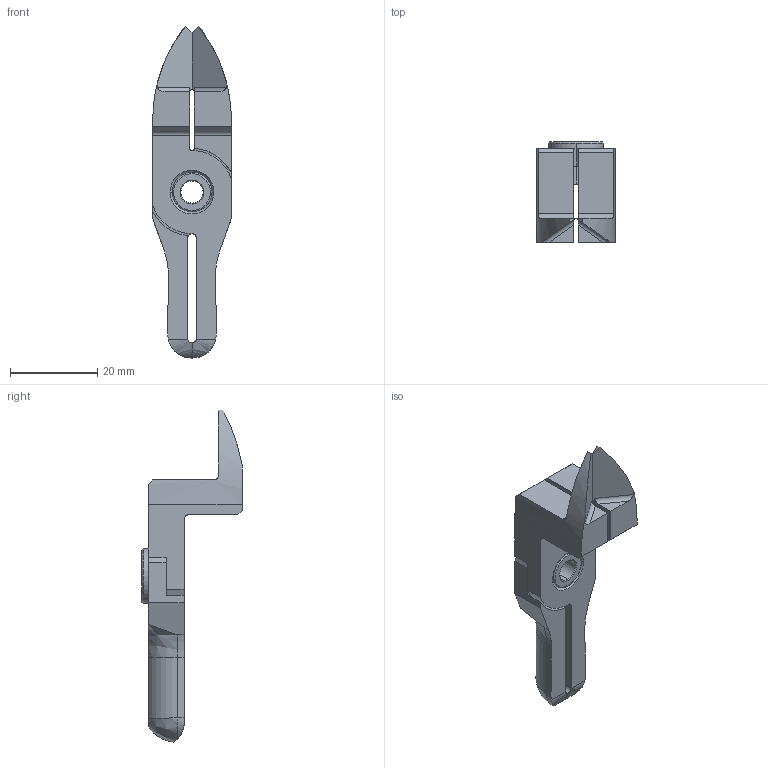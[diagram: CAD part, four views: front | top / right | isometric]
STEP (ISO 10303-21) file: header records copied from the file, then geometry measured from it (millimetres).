
FILE_DESCRIPTION (( 'STEP AP214' ), '1' );
FILE_NAME ('NY15AH.STEP', '2019-11-28T05:13:56', ( '微软用户' ), ( '微软中国' ), 'SwSTEP 2.0', 'SolidWorks 2016', '' );
FILE_SCHEMA (( 'AUTOMOTIVE_DESIGN' ));
Length unit declared in the file: millimetre
Products named in the file (4): BR2; BR1; BS; NY15AH
Assembly tree (3 placements, depth 2):
  NY15AH
    BS
    BR1
    BR2
Bounding box: 18 x 23 x 75.94 mm (x, y, z)
Volume: 8323.3 mm3; surface area: 6199.9 mm2
Topology: 3 solids, 3 shells, 130 faces, 356 edges, 233 vertices
Faces by surface type: plane 45, cylinder 42, cone 22, bspline 17, torus 4
Entity records: 5089 total; most frequent: CARTESIAN_POINT 1887, ORIENTED_EDGE 704, DIRECTION 550, EDGE_CURVE 352, VERTEX_POINT 233, AXIS2_PLACEMENT_3D 196, LINE 158, VECTOR 158
